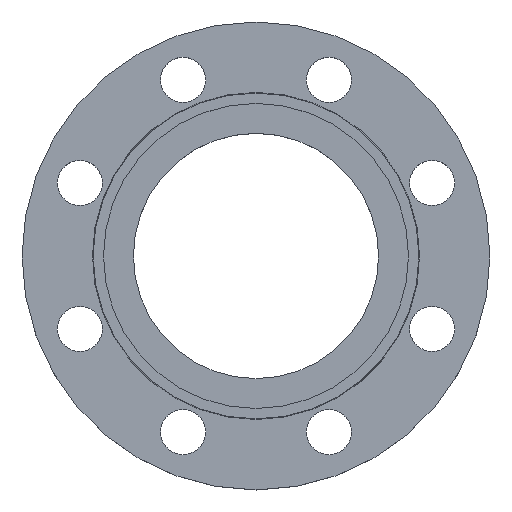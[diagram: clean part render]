
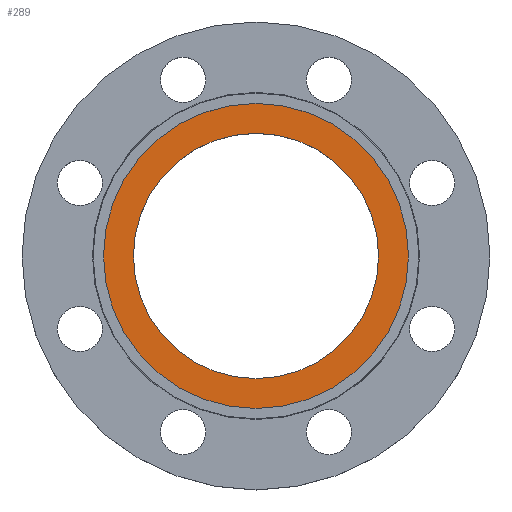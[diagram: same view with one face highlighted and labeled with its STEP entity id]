
A CAD part, top view. The second image highlights one B-rep face of the part: STEP entity #289.
In plain terms, the highlighted planar face has unit normal (0, 0, 1).
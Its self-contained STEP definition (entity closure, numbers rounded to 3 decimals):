
#5 = EDGE_CURVE ( 'NONE', #83, #711, #718, .T. ) ;
#15 = DIRECTION ( 'NONE',  ( 0., 0., -1. ) ) ;
#33 = ORIENTED_EDGE ( 'NONE', *, *, #102, .T. ) ;
#83 = VERTEX_POINT ( 'NONE', #269 ) ;
#94 = CARTESIAN_POINT ( 'NONE',  ( 88., 0., -4.5 ) ) ;
#102 = EDGE_CURVE ( 'NONE', #711, #83, #244, .T. ) ;
#116 = DIRECTION ( 'NONE',  ( 0., 0., -1. ) ) ;
#129 = CIRCLE ( 'NONE', #567, 88. ) ;
#167 = CARTESIAN_POINT ( 'NONE',  ( 0., 0., -4.5 ) ) ;
#223 = CIRCLE ( 'NONE', #939, 88. ) ;
#242 = CARTESIAN_POINT ( 'NONE',  ( 88., 0., -4.5 ) ) ;
#244 = CIRCLE ( 'NONE', #677, 70.75 ) ;
#252 = ORIENTED_EDGE ( 'NONE', *, *, #295, .F. ) ;
#256 = EDGE_LOOP ( 'NONE', ( #324, #252 ) ) ;
#263 = AXIS2_PLACEMENT_3D ( 'NONE', #242, #549, #853 ) ;
#269 = CARTESIAN_POINT ( 'NONE',  ( 70.75, 0., -4.5 ) ) ;
#274 = AXIS2_PLACEMENT_3D ( 'NONE', #707, #15, #319 ) ;
#289 = ADVANCED_FACE ( 'NONE', ( #318, #629 ), #913, .T. ) ;
#295 = EDGE_CURVE ( 'NONE', #309, #541, #129, .T. ) ;
#305 = CARTESIAN_POINT ( 'NONE',  ( -70.75, 0., -4.5 ) ) ;
#309 = VERTEX_POINT ( 'NONE', #94 ) ;
#318 = FACE_BOUND ( 'NONE', #838, .T. ) ;
#319 = DIRECTION ( 'NONE',  ( 1., 0., 0. ) ) ;
#324 = ORIENTED_EDGE ( 'NONE', *, *, #380, .F. ) ;
#333 = CARTESIAN_POINT ( 'NONE',  ( 0., 0., -4.5 ) ) ;
#380 = EDGE_CURVE ( 'NONE', #541, #309, #223, .T. ) ;
#423 = DIRECTION ( 'NONE',  ( 1., 0., 0. ) ) ;
#476 = DIRECTION ( 'NONE',  ( 0., 0., -1. ) ) ;
#541 = VERTEX_POINT ( 'NONE', #941 ) ;
#549 = DIRECTION ( 'NONE',  ( 0., 0., 1. ) ) ;
#567 = AXIS2_PLACEMENT_3D ( 'NONE', #167, #476, #784 ) ;
#629 = FACE_OUTER_BOUND ( 'NONE', #256, .T. ) ;
#648 = DIRECTION ( 'NONE',  ( 0., 0., -1. ) ) ;
#677 = AXIS2_PLACEMENT_3D ( 'NONE', #805, #116, #423 ) ;
#707 = CARTESIAN_POINT ( 'NONE',  ( 0., 0., -4.5 ) ) ;
#711 = VERTEX_POINT ( 'NONE', #305 ) ;
#718 = CIRCLE ( 'NONE', #274, 70.75 ) ;
#784 = DIRECTION ( 'NONE',  ( -1., 0., 0. ) ) ;
#805 = CARTESIAN_POINT ( 'NONE',  ( 0., 0., -4.5 ) ) ;
#838 = EDGE_LOOP ( 'NONE', ( #33, #894 ) ) ;
#853 = DIRECTION ( 'NONE',  ( 1., 0., 0. ) ) ;
#894 = ORIENTED_EDGE ( 'NONE', *, *, #5, .T. ) ;
#913 = PLANE ( 'NONE',  #263 ) ;
#931 = DIRECTION ( 'NONE',  ( -1., 0., 0. ) ) ;
#939 = AXIS2_PLACEMENT_3D ( 'NONE', #333, #648, #931 ) ;
#941 = CARTESIAN_POINT ( 'NONE',  ( -88., 0., -4.5 ) ) ;
